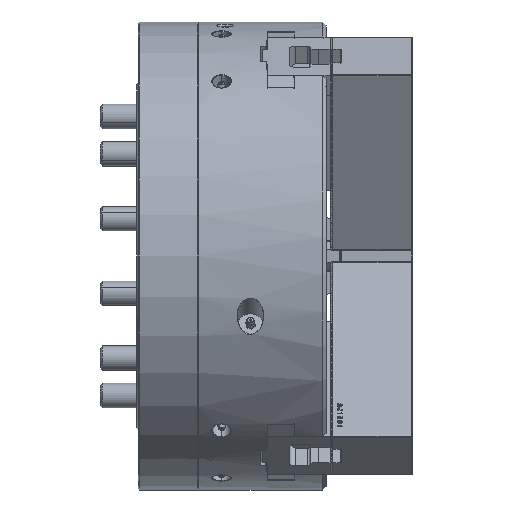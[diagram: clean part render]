
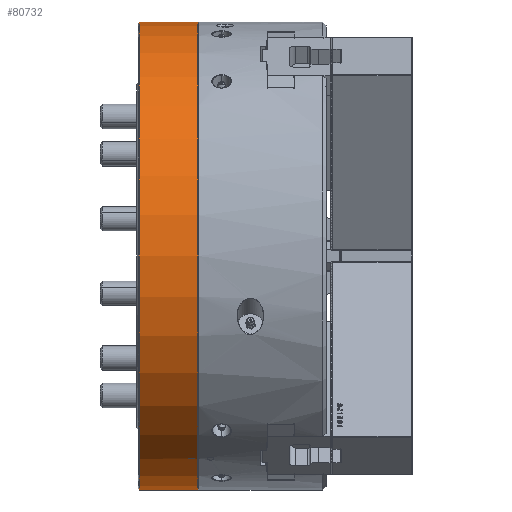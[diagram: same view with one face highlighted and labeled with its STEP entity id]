
A CAD part, front view. The second image highlights one B-rep face of the part: STEP entity #80732.
In plain terms, the highlighted cylindrical face has radius 190.5 mm (diameter 381 mm), a partial arc.
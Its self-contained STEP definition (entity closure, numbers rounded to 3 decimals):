
#339 = VERTEX_POINT ( 'NONE', #57761 ) ;
#3476 = ORIENTED_EDGE ( 'NONE', *, *, #75588, .F. ) ;
#7986 = DIRECTION ( 'NONE',  ( -1., 0., 0. ) ) ;
#8438 = ORIENTED_EDGE ( 'NONE', *, *, #108000, .F. ) ;
#11724 = VECTOR ( 'NONE', #137548, 1000. ) ;
#14551 = VERTEX_POINT ( 'NONE', #42794 ) ;
#16186 = DIRECTION ( 'NONE',  ( 0., 0., 1. ) ) ;
#23427 = VERTEX_POINT ( 'NONE', #190450 ) ;
#30784 = ORIENTED_EDGE ( 'NONE', *, *, #157479, .F. ) ;
#30833 = CARTESIAN_POINT ( 'NONE',  ( -104.5, 0., 0. ) ) ;
#32744 = VERTEX_POINT ( 'NONE', #161723 ) ;
#35562 = VERTEX_POINT ( 'NONE', #47299 ) ;
#39537 = CARTESIAN_POINT ( 'NONE',  ( -112., 0., 0. ) ) ;
#39673 = CIRCLE ( 'NONE', #42708, 190.5 ) ;
#39985 = CARTESIAN_POINT ( 'NONE',  ( -107., 0., 0. ) ) ;
#40490 = DIRECTION ( 'NONE',  ( 1., 0., 0. ) ) ;
#42708 = AXIS2_PLACEMENT_3D ( 'NONE', #58139, #72807, #132151 ) ;
#42794 = CARTESIAN_POINT ( 'NONE',  ( -104.5, 0., 190.5 ) ) ;
#44025 = AXIS2_PLACEMENT_3D ( 'NONE', #39985, #162619, #132440 ) ;
#47299 = CARTESIAN_POINT ( 'NONE',  ( -112., -94.817, -165.227 ) ) ;
#48495 = ORIENTED_EDGE ( 'NONE', *, *, #119731, .F. ) ;
#52526 = EDGE_CURVE ( 'NONE', #23427, #14551, #143321, .T. ) ;
#52860 = CARTESIAN_POINT ( 'NONE',  ( -245.149, -95.683, -164.727 ) ) ;
#57761 = CARTESIAN_POINT ( 'NONE',  ( -107., -94.817, -165.227 ) ) ;
#58139 = CARTESIAN_POINT ( 'NONE',  ( -152., 0., 0. ) ) ;
#66944 = CARTESIAN_POINT ( 'NONE',  ( -245.149, 0., 0. ) ) ;
#69207 = AXIS2_PLACEMENT_3D ( 'NONE', #39537, #40490, #98989 ) ;
#70383 = LINE ( 'NONE', #82079, #170989 ) ;
#72807 = DIRECTION ( 'NONE',  ( -1., 0., 0. ) ) ;
#75588 = EDGE_CURVE ( 'NONE', #166701, #114948, #140524, .T. ) ;
#80732 = ADVANCED_FACE ( 'NONE', ( #98095, #182814 ), #139008, .T. ) ;
#82079 = CARTESIAN_POINT ( 'NONE',  ( -245.149, -94.817, -165.227 ) ) ;
#85206 = EDGE_LOOP ( 'NONE', ( #8438, #133149, #155598, #30784 ) ) ;
#89788 = AXIS2_PLACEMENT_3D ( 'NONE', #66944, #170115, #127275 ) ;
#91508 = VECTOR ( 'NONE', #169216, 1000. ) ;
#93746 = CARTESIAN_POINT ( 'NONE',  ( -245.149, 0., -190.5 ) ) ;
#97055 = ORIENTED_EDGE ( 'NONE', *, *, #148732, .F. ) ;
#98095 = FACE_OUTER_BOUND ( 'NONE', #85206, .T. ) ;
#98989 = DIRECTION ( 'NONE',  ( 0., 0., -1. ) ) ;
#99835 = AXIS2_PLACEMENT_3D ( 'NONE', #30833, #134081, #16186 ) ;
#105536 = CARTESIAN_POINT ( 'NONE',  ( -112., -95.683, -164.727 ) ) ;
#108000 = EDGE_CURVE ( 'NONE', #23427, #32744, #152178, .T. ) ;
#109855 = CARTESIAN_POINT ( 'NONE',  ( -245.149, 0., 190.5 ) ) ;
#114948 = VERTEX_POINT ( 'NONE', #105536 ) ;
#118490 = EDGE_LOOP ( 'NONE', ( #97055, #172838, #48495, #3476 ) ) ;
#119731 = EDGE_CURVE ( 'NONE', #114948, #35562, #153132, .T. ) ;
#127275 = DIRECTION ( 'NONE',  ( 0., 0., 1. ) ) ;
#129726 = DIRECTION ( 'NONE',  ( -1., 0., 0. ) ) ;
#131575 = EDGE_CURVE ( 'NONE', #339, #35562, #70383, .T. ) ;
#132151 = DIRECTION ( 'NONE',  ( 0., 0., 1. ) ) ;
#132440 = DIRECTION ( 'NONE',  ( 0., 0., 1. ) ) ;
#133149 = ORIENTED_EDGE ( 'NONE', *, *, #52526, .T. ) ;
#134081 = DIRECTION ( 'NONE',  ( -1., 0., 0. ) ) ;
#136193 = CARTESIAN_POINT ( 'NONE',  ( -107., -95.683, -164.727 ) ) ;
#137548 = DIRECTION ( 'NONE',  ( -1., 0., 0. ) ) ;
#139008 = CYLINDRICAL_SURFACE ( 'NONE', #89788, 190.5 ) ;
#140524 = LINE ( 'NONE', #52860, #188473 ) ;
#143321 = CIRCLE ( 'NONE', #99835, 190.5 ) ;
#148732 = EDGE_CURVE ( 'NONE', #339, #166701, #187049, .T. ) ;
#152178 = LINE ( 'NONE', #93746, #11724 ) ;
#153132 = CIRCLE ( 'NONE', #69207, 190.5 ) ;
#155598 = ORIENTED_EDGE ( 'NONE', *, *, #173391, .T. ) ;
#157479 = EDGE_CURVE ( 'NONE', #32744, #158080, #39673, .T. ) ;
#158080 = VERTEX_POINT ( 'NONE', #182215 ) ;
#161723 = CARTESIAN_POINT ( 'NONE',  ( -152., 0., -190.5 ) ) ;
#162619 = DIRECTION ( 'NONE',  ( -1., 0., 0. ) ) ;
#166701 = VERTEX_POINT ( 'NONE', #136193 ) ;
#169216 = DIRECTION ( 'NONE',  ( -1., 0., 0. ) ) ;
#170115 = DIRECTION ( 'NONE',  ( -1., 0., 0. ) ) ;
#170989 = VECTOR ( 'NONE', #129726, 1000. ) ;
#172838 = ORIENTED_EDGE ( 'NONE', *, *, #131575, .T. ) ;
#173391 = EDGE_CURVE ( 'NONE', #14551, #158080, #183818, .T. ) ;
#182215 = CARTESIAN_POINT ( 'NONE',  ( -152., 0., 190.5 ) ) ;
#182814 = FACE_BOUND ( 'NONE', #118490, .T. ) ;
#183818 = LINE ( 'NONE', #109855, #91508 ) ;
#187049 = CIRCLE ( 'NONE', #44025, 190.5 ) ;
#188473 = VECTOR ( 'NONE', #7986, 1000. ) ;
#190450 = CARTESIAN_POINT ( 'NONE',  ( -104.5, 0., -190.5 ) ) ;
